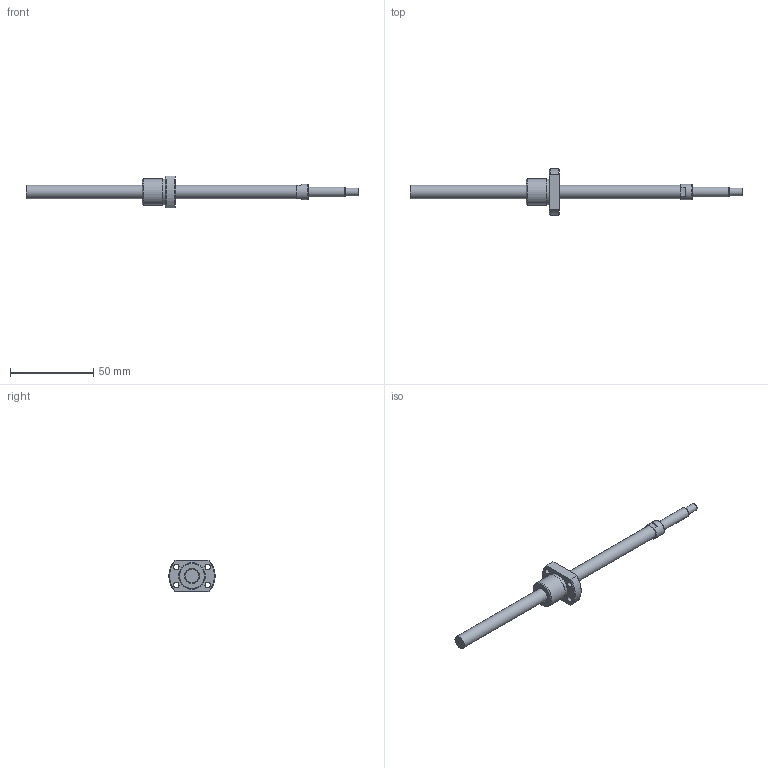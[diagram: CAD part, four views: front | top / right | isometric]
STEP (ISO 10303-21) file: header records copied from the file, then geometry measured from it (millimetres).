
FILE_DESCRIPTION(/* description */ ('STEP AP214'),/* implementation_level */ '2;1');
FILE_NAME(/* name */ 'NSGF0801Z-160R200C3-0-T-S-T-A-(70-S)',/* time_stamp */ '2026-08-24T20:10:09+02:00',/* author */ ('License CC BY-ND 4.0'),/* organization */ ('CADENAS'),/* preprocessor_version */ 'ST-DEVELOPER v20',/* originating_system */ 'PARTsolutions',/* authorisation */ ' ');
FILE_SCHEMA (('AUTOMOTIVE_DESIGN {1 0 10303 214 3 1 1}'));
Length unit declared in the file: millimetre
Products named in the file (3): NSGF0801Z-160R200C3-0-T-S-T-A-(70-S); NSG0801Z-160R20022_(T-S_T-A_2)-2; NSGF0801Z-1
Assembly tree (2 placements, depth 2):
  NSGF0801Z-160R200C3-0-T-S-T-A-(70-S)
    NSG0801Z-160R20022_(T-S_T-A_2)-2
    NSGF0801Z-1
Bounding box: 200 x 27.9 x 19 mm (x, y, z)
Volume: 13400.9 mm3; surface area: 7790 mm2
Topology: 2 solids, 2 shells, 40 faces, 88 edges, 57 vertices
Faces by surface type: plane 17, cylinder 14, cone 8, torus 1
Full cylindrical faces by diameter (mm): 3.4 x4, 4.5 x1, 6 x1, 8 x2, 9.5 x1, 13 x1, 15.5 x1, 16 x1
Entity records: 1095 total; most frequent: CARTESIAN_POINT 187, DIRECTION 186, ORIENTED_EDGE 134, AXIS2_PLACEMENT_3D 84, EDGE_LOOP 72, FACE_BOUND 72, EDGE_CURVE 67, VERTEX_POINT 53
